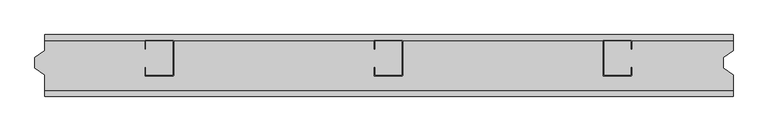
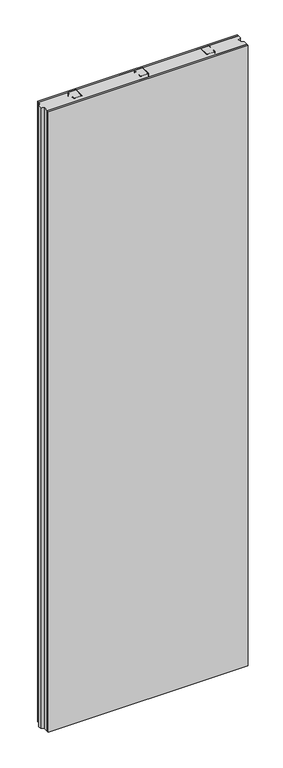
"""IFC4 building model written with IfcOpenShell, lengths in millimetres: plate geometry, Steelfoam Divisorio : Divisorio 9cm."""

from ifc_helpers import new_model, si_unit, point, frame_2d, origin, origin_with_axes, place, context, project, spatial, polyline, circle_curve, trimmed, segment, composite_curve, outline, extrude, source, transform, mapped, element, save


def plate_1ff2c585(model_context):
    return source(origin(), model_context, "Body", "SweptSolid", [
        extrude(outline(composite_curve([segment(trimmed(circle_curve(frame_2d((381.6603819, -61.5)), 2.0), [point((381.6603819, -63.5))], [point((379.6603819, -61.5))], False, "CARTESIAN"), True, "CONTINUOUS"), segment(polyline([(379.6603819, -61.5), (379.6603819, -2.0)]), True, "CONTINUOUS"), segment(trimmed(circle_curve(frame_2d((381.6603819, -2.0)), 2.0), [point((379.6603819, -2.0))], [point((381.6603819, 0.0))], False, "CARTESIAN"), True, "CONTINUOUS"), segment(polyline([(381.6603819, 0.0), (428.4603819, 0.0)]), True, "CONTINUOUS"), segment(trimmed(circle_curve(frame_2d((428.4603819, -2.0)), 2.0), [point((428.4603819, 0.0))], [point((430.4603819, -2.0))], False, "CARTESIAN"), True, "CONTINUOUS"), segment(polyline([(430.4603819, -2.0), (430.4603819, -15.0), (429.6603819, -15.0), (429.6603819, -2.0)]), True, "CONTINUOUS"), segment(trimmed(circle_curve(frame_2d((428.3603819, -2.0)), 1.3), [point((429.6603819, -2.0))], [point((428.3603819, -0.7))], True, "CARTESIAN"), True, "CONTINUOUS"), segment(polyline([(428.3603819, -0.7), (381.6603819, -0.7)]), True, "CONTINUOUS"), segment(trimmed(circle_curve(frame_2d((381.6603819, -2.0)), 1.3), [point((381.6603819, -0.7))], [point((380.3603819, -2.0))], True, "CARTESIAN"), True, "CONTINUOUS"), segment(polyline([(380.3603819, -2.0), (380.3603819, -61.5)]), True, "CONTINUOUS"), segment(trimmed(circle_curve(frame_2d((381.6603819, -61.5)), 1.3), [point((380.3603819, -61.5))], [point((381.6603819, -62.8))], True, "CARTESIAN"), True, "CONTINUOUS"), segment(polyline([(381.6603819, -62.8), (428.3603819, -62.8)]), True, "CONTINUOUS"), segment(trimmed(circle_curve(frame_2d((428.3603819, -61.5)), 1.3), [point((428.3603819, -62.8))], [point((429.6603819, -61.5))], True, "CARTESIAN"), True, "CONTINUOUS"), segment(polyline([(429.6603819, -61.5), (429.6603819, -48.5), (430.4603819, -48.5), (430.4603819, -61.5)]), True, "CONTINUOUS"), segment(trimmed(circle_curve(frame_2d((428.4603819, -61.5)), 2.0), [point((430.4603819, -61.5))], [point((428.4603819, -63.5))], False, "CARTESIAN"), True, "CONTINUOUS"), segment(polyline([(428.4603819, -63.5), (381.6603819, -63.5)]), True, "CONTINUOUS")], self_intersect=False)), origin_with_axes(), (0.0, 0.0, 1.0), 4000.0),
        extrude(outline(composite_curve([segment(polyline([(-383.6225297, -63.5), (-430.4225297, -63.5)]), True, "CONTINUOUS"), segment(trimmed(circle_curve(frame_2d((-430.4225297, -61.5)), 2.0), [point((-430.4225297, -63.5))], [point((-432.4225297, -61.5))], False, "CARTESIAN"), True, "CONTINUOUS"), segment(polyline([(-432.4225297, -61.5), (-432.4225297, -48.5), (-431.6225297, -48.5), (-431.6225297, -61.5)]), True, "CONTINUOUS"), segment(trimmed(circle_curve(frame_2d((-430.3225297, -61.5)), 1.3), [point((-431.6225297, -61.5))], [point((-430.3225297, -62.8))], True, "CARTESIAN"), True, "CONTINUOUS"), segment(polyline([(-430.3225297, -62.8), (-383.6225297, -62.8)]), True, "CONTINUOUS"), segment(trimmed(circle_curve(frame_2d((-383.6225297, -61.5)), 1.3), [point((-383.6225297, -62.8))], [point((-382.3225297, -61.5))], True, "CARTESIAN"), True, "CONTINUOUS"), segment(polyline([(-382.3225297, -61.5), (-382.3225297, -2.0)]), True, "CONTINUOUS"), segment(trimmed(circle_curve(frame_2d((-383.6225297, -2.0)), 1.3), [point((-382.3225297, -2.0))], [point((-383.6225297, -0.7))], True, "CARTESIAN"), True, "CONTINUOUS"), segment(polyline([(-383.6225297, -0.7), (-430.3225297, -0.7)]), True, "CONTINUOUS"), segment(trimmed(circle_curve(frame_2d((-430.3225297, -2.0)), 1.3), [point((-430.3225297, -0.7))], [point((-431.6225297, -2.0))], True, "CARTESIAN"), True, "CONTINUOUS"), segment(polyline([(-431.6225297, -2.0), (-431.6225297, -15.0), (-432.4225297, -15.0), (-432.4225297, -2.0)]), True, "CONTINUOUS"), segment(trimmed(circle_curve(frame_2d((-430.4225297, -2.0)), 2.0), [point((-432.4225297, -2.0))], [point((-430.4225297, 0.0))], False, "CARTESIAN"), True, "CONTINUOUS"), segment(polyline([(-430.4225297, 0.0), (-383.6225297, 0.0)]), True, "CONTINUOUS"), segment(trimmed(circle_curve(frame_2d((-383.6225297, -2.0)), 2.0), [point((-383.6225297, 0.0))], [point((-381.6225297, -2.0))], False, "CARTESIAN"), True, "CONTINUOUS"), segment(polyline([(-381.6225297, -2.0), (-381.6225297, -61.5)]), True, "CONTINUOUS"), segment(trimmed(circle_curve(frame_2d((-383.6225297, -61.5)), 2.0), [point((-381.6225297, -61.5))], [point((-383.6225297, -63.5))], False, "CARTESIAN"), True, "CONTINUOUS")], self_intersect=False)), origin_with_axes(), (0.0, 0.0, 1.0), 4000.0),
        extrude(outline(composite_curve([segment(polyline([(22.3849224, -63.5), (-24.4150776, -63.5)]), True, "CONTINUOUS"), segment(trimmed(circle_curve(frame_2d((-24.4150776, -61.5)), 2.0), [point((-24.4150776, -63.5))], [point((-26.4150776, -61.5))], False, "CARTESIAN"), True, "CONTINUOUS"), segment(polyline([(-26.4150776, -61.5), (-26.4150776, -48.5), (-25.6150776, -48.5), (-25.6150776, -61.5)]), True, "CONTINUOUS"), segment(trimmed(circle_curve(frame_2d((-24.3150776, -61.5)), 1.3), [point((-25.6150776, -61.5))], [point((-24.3150776, -62.8))], True, "CARTESIAN"), True, "CONTINUOUS"), segment(polyline([(-24.3150776, -62.8), (22.3849224, -62.8)]), True, "CONTINUOUS"), segment(trimmed(circle_curve(frame_2d((22.3849224, -61.5)), 1.3), [point((22.3849224, -62.8))], [point((23.6849224, -61.5))], True, "CARTESIAN"), True, "CONTINUOUS"), segment(polyline([(23.6849224, -61.5), (23.6849224, -2.0)]), True, "CONTINUOUS"), segment(trimmed(circle_curve(frame_2d((22.3849224, -2.0)), 1.3), [point((23.6849224, -2.0))], [point((22.3849224, -0.7))], True, "CARTESIAN"), True, "CONTINUOUS"), segment(polyline([(22.3849224, -0.7), (-24.3150776, -0.7)]), True, "CONTINUOUS"), segment(trimmed(circle_curve(frame_2d((-24.3150776, -2.0)), 1.3), [point((-24.3150776, -0.7))], [point((-25.6150776, -2.0))], True, "CARTESIAN"), True, "CONTINUOUS"), segment(polyline([(-25.6150776, -2.0), (-25.6150776, -15.0), (-26.4150776, -15.0), (-26.4150776, -2.0)]), True, "CONTINUOUS"), segment(trimmed(circle_curve(frame_2d((-24.4150776, -2.0)), 2.0), [point((-26.4150776, -2.0))], [point((-24.4150776, 0.0))], False, "CARTESIAN"), True, "CONTINUOUS"), segment(polyline([(-24.4150776, 0.0), (22.3849224, 0.0)]), True, "CONTINUOUS"), segment(trimmed(circle_curve(frame_2d((22.3849224, -2.0)), 2.0), [point((22.3849224, 0.0))], [point((24.3849224, -2.0))], False, "CARTESIAN"), True, "CONTINUOUS"), segment(polyline([(24.3849224, -2.0), (24.3849224, -61.5)]), True, "CONTINUOUS"), segment(trimmed(circle_curve(frame_2d((22.3849224, -61.5)), 2.0), [point((24.3849224, -61.5))], [point((22.3849224, -63.5))], False, "CARTESIAN"), True, "CONTINUOUS")], self_intersect=False)), origin_with_axes(), (0.0, 0.0, 1.0), 4000.0),
        extrude(outline(polyline([(610.0, 0.0), (-610.0, 0.0), (-610.0, 10.0), (610.0, 10.0), (610.0, 0.0)])), origin_with_axes(), (0.0, 0.0, 1.0), 4000.0),
        extrude(outline(polyline([(610.0, -90.0), (610.0, -100.0), (-610.0, -100.0), (-610.0, -90.0), (610.0, -90.0)])), origin_with_axes(), (0.0, 0.0, 1.0), 4000.0),
        extrude(outline(polyline([(610.0, -90.0), (-610.0, -90.0), (-610.0, -61.6434349), (-627.6333408, -49.2964367), (-627.6333408, -30.7035633), (-610.0, -18.3565651), (-610.0, 0.0), (-432.4225297, 0.0), (-432.4225297, -0.8), (-381.6225297, -0.8), (-381.6225297, 0.0), (-26.4150776, 0.0), (-26.4150776, -0.8), (24.3849224, -0.8), (24.3849224, 0.0), (379.6603819, 0.0), (379.6603819, -0.8), (430.4603819, -0.8), (430.4603819, 0.0), (610.0, 0.0), (610.0, -18.3565651), (592.3666592, -30.7035633), (592.3666592, -49.2964367), (610.0, -61.6434349), (610.0, -90.0)])), origin_with_axes(), (0.0, 0.0, 1.0), 4000.0),
    ])


if __name__ == "__main__":
    model = new_model("IFC4")
    model_context = context("Model", 3, world=origin())
    ifc_project = project(units=[si_unit("LENGTHUNIT", "METRE", prefix="MILLI")], contexts=[model_context])
    site = spatial("IfcSite", under=ifc_project)
    building = spatial("IfcBuilding", under=site)
    placement = place(None, origin())
    plate_shape = plate_1ff2c585(model_context)
    element("IfcPlate", 1, ObjectType="Steelfoam Divisorio : Divisorio 9cm", at=placement, inside=building, context=model_context, shape_type="MappedRepresentation", body=[
        mapped(plate_shape, transform((0.0, 0.0, 0.0), x_axis=(1.0, 0.0, 0.0), y_axis=(0.0, 1.0, 0.0), z_axis=(0.0, 0.0, 1.0))),
    ])
    save(model, "model.ifc")
